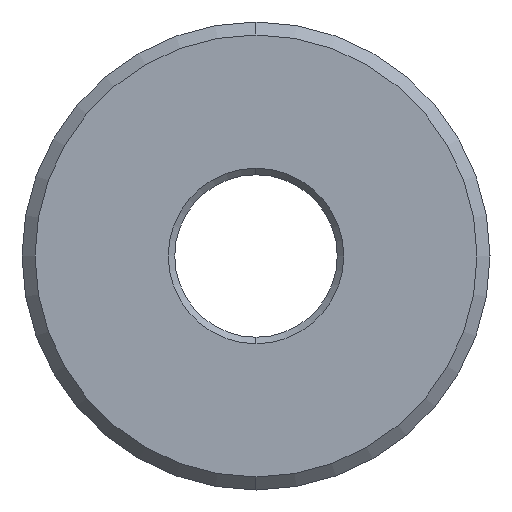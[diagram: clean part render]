
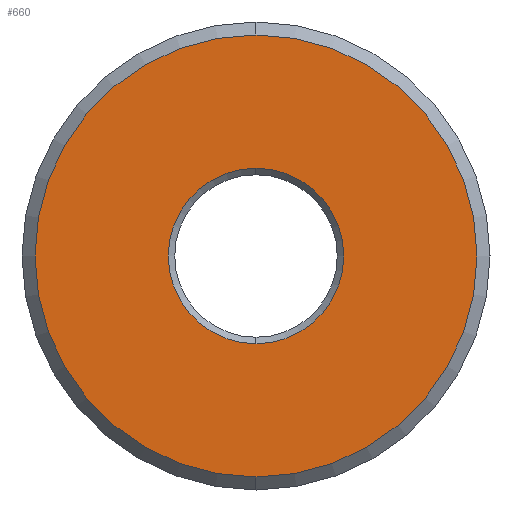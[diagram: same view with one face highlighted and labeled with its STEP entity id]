
A CAD part, left-side view. The second image highlights one B-rep face of the part: STEP entity #660.
In plain terms, the highlighted planar face has unit normal (-1, 0, 0).
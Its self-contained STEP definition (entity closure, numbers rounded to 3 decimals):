
#10 = CARTESIAN_POINT ( 'NONE',  ( -82., 0., 6.75 ) ) ;
#12 = CIRCLE ( 'NONE', #324, 17. ) ;
#14 = EDGE_LOOP ( 'NONE', ( #540, #583 ) ) ;
#28 = DIRECTION ( 'NONE',  ( 1., 0., 0. ) ) ;
#32 = DIRECTION ( 'NONE',  ( 0., 0., -1. ) ) ;
#41 = DIRECTION ( 'NONE',  ( 1., 0., 0. ) ) ;
#77 = EDGE_CURVE ( 'NONE', #395, #647, #302, .T. ) ;
#139 = PLANE ( 'NONE',  #361 ) ;
#148 = CARTESIAN_POINT ( 'NONE',  ( -82., 0., -6.75 ) ) ;
#170 = CARTESIAN_POINT ( 'NONE',  ( -82., 0., 0. ) ) ;
#173 = CARTESIAN_POINT ( 'NONE',  ( -82., 0., 0. ) ) ;
#236 = CIRCLE ( 'NONE', #673, 6.75 ) ;
#241 = EDGE_CURVE ( 'NONE', #497, #682, #12, .T. ) ;
#244 = DIRECTION ( 'NONE',  ( 0., 0., 1. ) ) ;
#252 = ORIENTED_EDGE ( 'NONE', *, *, #368, .T. ) ;
#280 = ORIENTED_EDGE ( 'NONE', *, *, #77, .T. ) ;
#292 = CARTESIAN_POINT ( 'NONE',  ( -82., 0., 17. ) ) ;
#295 = DIRECTION ( 'NONE',  ( -1., 0., 0. ) ) ;
#302 = CIRCLE ( 'NONE', #627, 6.75 ) ;
#324 = AXIS2_PLACEMENT_3D ( 'NONE', #416, #679, #568 ) ;
#361 = AXIS2_PLACEMENT_3D ( 'NONE', #405, #295, #244 ) ;
#368 = EDGE_CURVE ( 'NONE', #647, #395, #236, .T. ) ;
#380 = DIRECTION ( 'NONE',  ( 1., 0., 0. ) ) ;
#395 = VERTEX_POINT ( 'NONE', #10 ) ;
#405 = CARTESIAN_POINT ( 'NONE',  ( -82., 17., 0. ) ) ;
#416 = CARTESIAN_POINT ( 'NONE',  ( -82., 0., 0. ) ) ;
#455 = CARTESIAN_POINT ( 'NONE',  ( -82., 0., -17. ) ) ;
#456 = CARTESIAN_POINT ( 'NONE',  ( -82., 0., 0. ) ) ;
#461 = EDGE_LOOP ( 'NONE', ( #280, #252 ) ) ;
#492 = EDGE_CURVE ( 'NONE', #682, #497, #638, .T. ) ;
#497 = VERTEX_POINT ( 'NONE', #292 ) ;
#514 = AXIS2_PLACEMENT_3D ( 'NONE', #173, #28, #653 ) ;
#536 = DIRECTION ( 'NONE',  ( 0., 0., -1. ) ) ;
#540 = ORIENTED_EDGE ( 'NONE', *, *, #492, .F. ) ;
#547 = FACE_OUTER_BOUND ( 'NONE', #14, .T. ) ;
#568 = DIRECTION ( 'NONE',  ( 0., 0., -1. ) ) ;
#583 = ORIENTED_EDGE ( 'NONE', *, *, #241, .F. ) ;
#627 = AXIS2_PLACEMENT_3D ( 'NONE', #456, #41, #32 ) ;
#638 = CIRCLE ( 'NONE', #514, 17. ) ;
#647 = VERTEX_POINT ( 'NONE', #148 ) ;
#653 = DIRECTION ( 'NONE',  ( 0., 0., -1. ) ) ;
#660 = ADVANCED_FACE ( 'NONE', ( #674, #547 ), #139, .T. ) ;
#673 = AXIS2_PLACEMENT_3D ( 'NONE', #170, #380, #536 ) ;
#674 = FACE_BOUND ( 'NONE', #461, .T. ) ;
#679 = DIRECTION ( 'NONE',  ( 1., 0., 0. ) ) ;
#682 = VERTEX_POINT ( 'NONE', #455 ) ;
